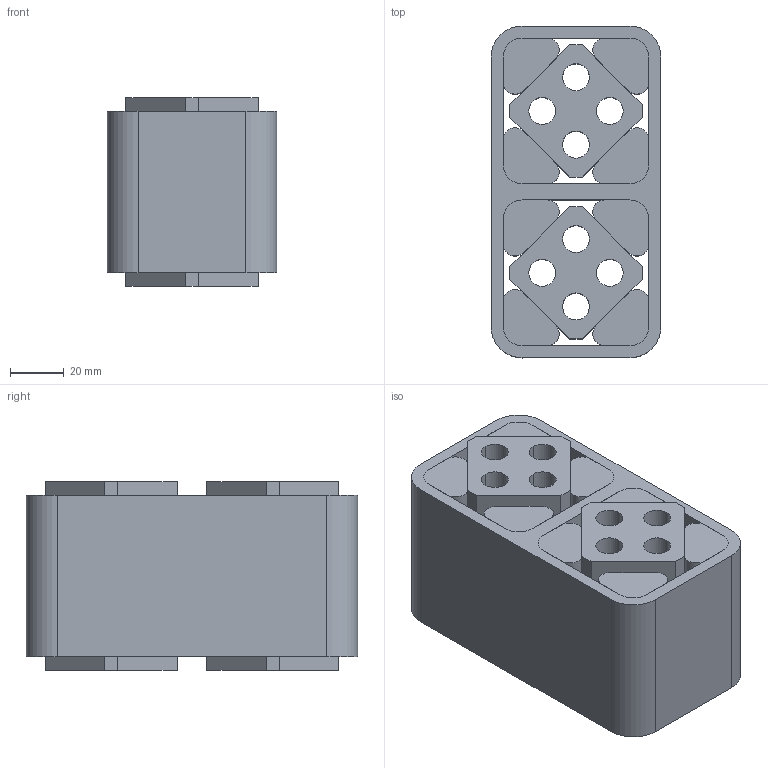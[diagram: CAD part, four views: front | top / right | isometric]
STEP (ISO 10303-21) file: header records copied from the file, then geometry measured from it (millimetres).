
FILE_DESCRIPTION((''),'2;1');
FILE_NAME('D:\ROSTA\Gummifederelemente\3D\DO-A38x60_01041010.stp','2005-02-09T15:47:53',('Administrator'),(''),'Autodesk Inventor 8','Autodesk Inventor 8','');
FILE_SCHEMA(('AUTOMOTIVE_DESIGN { 1 0 10303 214 1 1 1 1 }'));
Length unit declared in the file: millimetre
Products named in the file (4): Baugruppe1; 4.4.3761-001; 4.4.3761-002; 4.4.3761-003
Assembly tree (11 placements, depth 2):
  Baugruppe1
    4.4.3761-001
    4.4.3761-002  x2
    4.4.3761-003  x8
Bounding box: 63 x 123 x 70 mm (x, y, z)
Volume: 415858.6 mm3; surface area: 128849.4 mm2
Topology: 11 solids, 11 shells, 126 faces, 312 edges, 208 vertices
Faces by surface type: plane 74, cylinder 52
Entity records: 1819 total; most frequent: DIRECTION 318, CARTESIAN_POINT 297, ORIENTED_EDGE 276, EDGE_CURVE 138, AXIS2_PLACEMENT_3D 113, VERTEX_POINT 92, VECTOR 92, LINE 92
